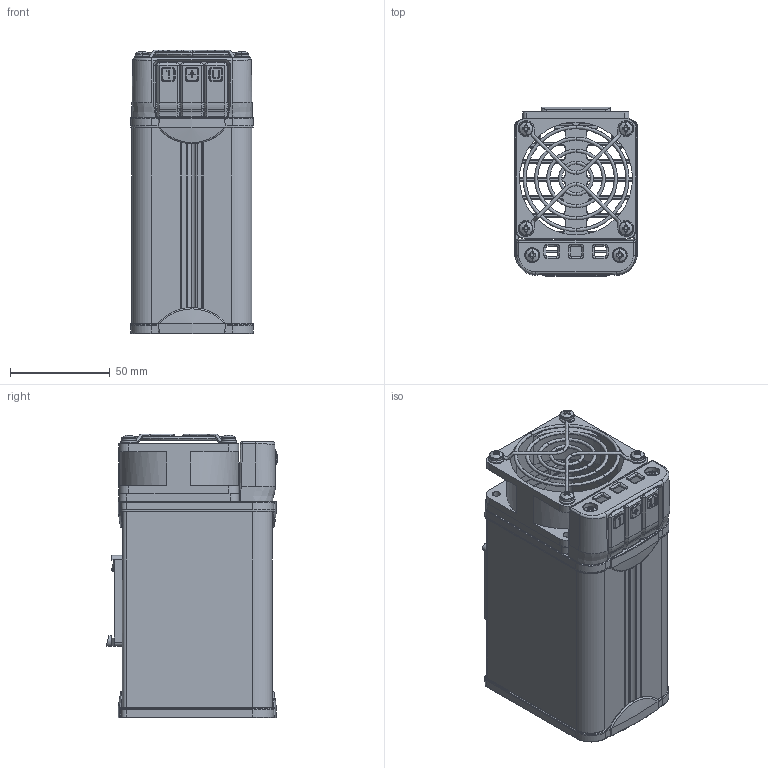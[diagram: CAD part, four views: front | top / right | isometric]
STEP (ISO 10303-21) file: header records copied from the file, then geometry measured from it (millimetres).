
FILE_DESCRIPTION(/* description */ (''),/* implementation_level */ '2;1');
FILE_NAME(/* name */ 'HVMS20~1',/* time_stamp */ '2023-01-31T11:46:02+01:00',/* author */ (''),/* organization */ (''),/* preprocessor_version */ 'ST-DEVELOPER v14',/* originating_system */ '',/* authorisation */ '');
FILE_SCHEMA (('AUTOMOTIVE_DESIGN'));
Length unit declared in the file: millimetre
Products named in the file (1): Document
Bounding box: 61.5 x 85.15 x 142 mm (x, y, z)
Volume: 1612.2 mm3; surface area: 59423.9 mm2
Topology: 2 solids, 16 shells, 1283 faces, 3554 edges, 2274 vertices
Faces by surface type: bspline 870, plane 413
Entity records: 76434 total; most frequent: CARTESIAN_POINT 56871, ORIENTED_EDGE 6555, EDGE_CURVE 3553, VERTEX_POINT 2274, B_SPLINE_CURVE_WITH_KNOTS 1804, EDGE_LOOP 1383, ADVANCED_FACE 1283, FACE_OUTER_BOUND 1283
